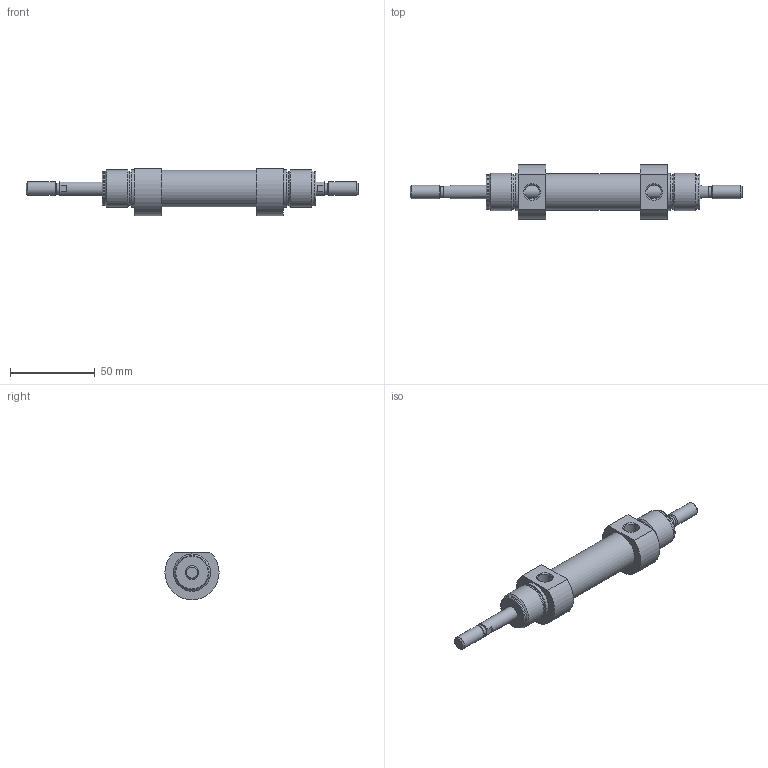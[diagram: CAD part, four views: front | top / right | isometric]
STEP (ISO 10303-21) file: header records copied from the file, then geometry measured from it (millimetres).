
FILE_DESCRIPTION( ( 'STEP AP203' ), '1' );
FILE_NAME( '//expscmdclustefs.cadenas.external/client_exchange/iodir/jobs/output/wkb68459027_no0/STEP/M101-020-0020--__0__2_03.stp', ' ', ( ' ' ), ( ' ' ), 'PSStep 15.0.47', 'PARTsolutions', ' ' );
FILE_SCHEMA( ( 'CONFIG_CONTROL_DESIGN' ) );
Length unit declared in the file: millimetre
Products named in the file (3): M101-020-0020-- [0]; HI_M101-020-0020---[0]-z; HI_M101-020-0020---[0]-k
Assembly tree (2 placements, depth 2):
  M101-020-0020-- [0]
    HI_M101-020-0020---[0]-z
    HI_M101-020-0020---[0]-k
Bounding box: 196 x 32 x 28 mm (x, y, z)
Volume: 55516 mm3; surface area: 22613.6 mm2
Topology: 2 solids, 2 shells, 65 faces, 129 edges, 80 vertices
Faces by surface type: plane 26, cylinder 23, cone 14, torus 2
Full cylindrical faces by diameter (mm): 6.466 x2, 8 x6, 8.566 x2, 20 x2, 20.16 x4, 21.6 x1, 22 x4
Entity records: 1702 total; most frequent: CARTESIAN_POINT 356, DIRECTION 280, ORIENTED_EDGE 184, AXIS2_PLACEMENT_3D 128, EDGE_LOOP 116, EDGE_CURVE 92, FACE_OUTER_BOUND 88, VERTEX_POINT 76
